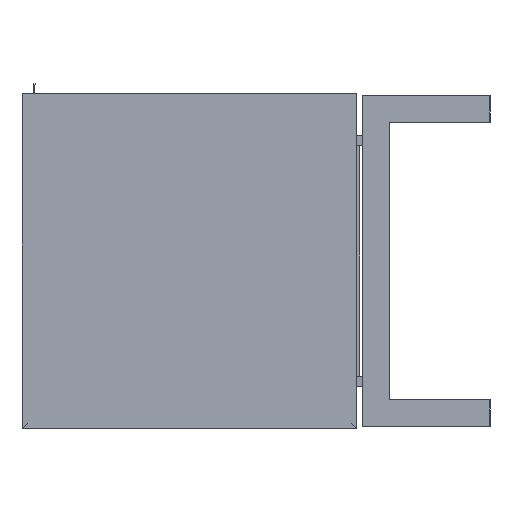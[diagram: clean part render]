
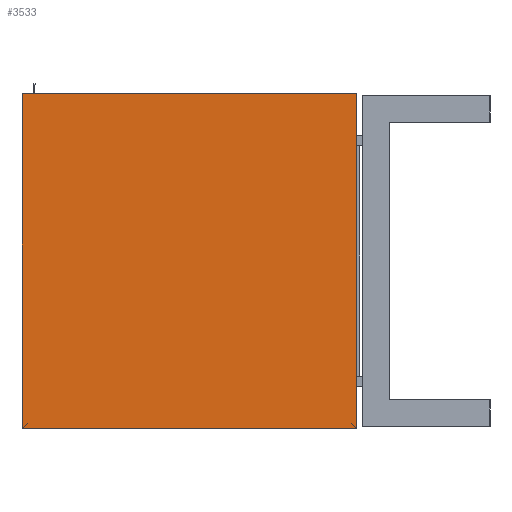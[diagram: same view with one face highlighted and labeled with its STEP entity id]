
A CAD part, left-side view. The second image highlights one B-rep face of the part: STEP entity #3533.
In plain terms, the highlighted planar face has unit normal (-1, 0, 0).
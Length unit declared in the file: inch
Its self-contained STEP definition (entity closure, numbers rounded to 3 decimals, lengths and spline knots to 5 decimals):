
#569=FACE_OUTER_BOUND('',#743,.T.);
#743=EDGE_LOOP('',(#2503,#2504,#2505,#2506));
#922=LINE('',#4891,#1344);
#926=LINE('',#4900,#1348);
#929=LINE('',#4905,#1351);
#930=LINE('',#4907,#1352);
#1344=VECTOR('',#4056,0.3937);
#1348=VECTOR('',#4064,0.3937);
#1351=VECTOR('',#4069,0.3937);
#1352=VECTOR('',#4072,0.3937);
#1763=VERTEX_POINT('',#4884);
#1766=VERTEX_POINT('',#4889);
#1769=VERTEX_POINT('',#4899);
#1770=VERTEX_POINT('',#4903);
#2052=EDGE_CURVE('',#1763,#1766,#922,.T.);
#2056=EDGE_CURVE('',#1763,#1769,#926,.T.);
#2059=EDGE_CURVE('',#1766,#1770,#929,.T.);
#2060=EDGE_CURVE('',#1769,#1770,#930,.T.);
#2503=ORIENTED_EDGE('',*,*,#2052,.T.);
#2504=ORIENTED_EDGE('',*,*,#2059,.T.);
#2505=ORIENTED_EDGE('',*,*,#2060,.F.);
#2506=ORIENTED_EDGE('',*,*,#2056,.F.);
#3367=PLANE('',#3847);
#3533=ADVANCED_FACE('',(#569),#3367,.T.);
#3847=AXIS2_PLACEMENT_3D('',#4906,#4070,#4071);
#4056=DIRECTION('',(0.,-1.,0.));
#4064=DIRECTION('',(0.,0.,1.));
#4069=DIRECTION('',(0.,0.,1.));
#4070=DIRECTION('center_axis',(-1.,0.,0.));
#4071=DIRECTION('ref_axis',(0.,-1.,0.));
#4072=DIRECTION('',(0.,-1.,0.));
#4884=CARTESIAN_POINT('',(0.,25.,0.));
#4889=CARTESIAN_POINT('',(0.,0.,0.));
#4891=CARTESIAN_POINT('',(0.,25.,0.));
#4899=CARTESIAN_POINT('',(0.,25.,25.));
#4900=CARTESIAN_POINT('',(0.,25.,0.));
#4903=CARTESIAN_POINT('',(0.,0.,25.));
#4905=CARTESIAN_POINT('',(0.,0.,0.));
#4906=CARTESIAN_POINT('Origin',(0.,25.,0.));
#4907=CARTESIAN_POINT('',(0.,25.,25.));
